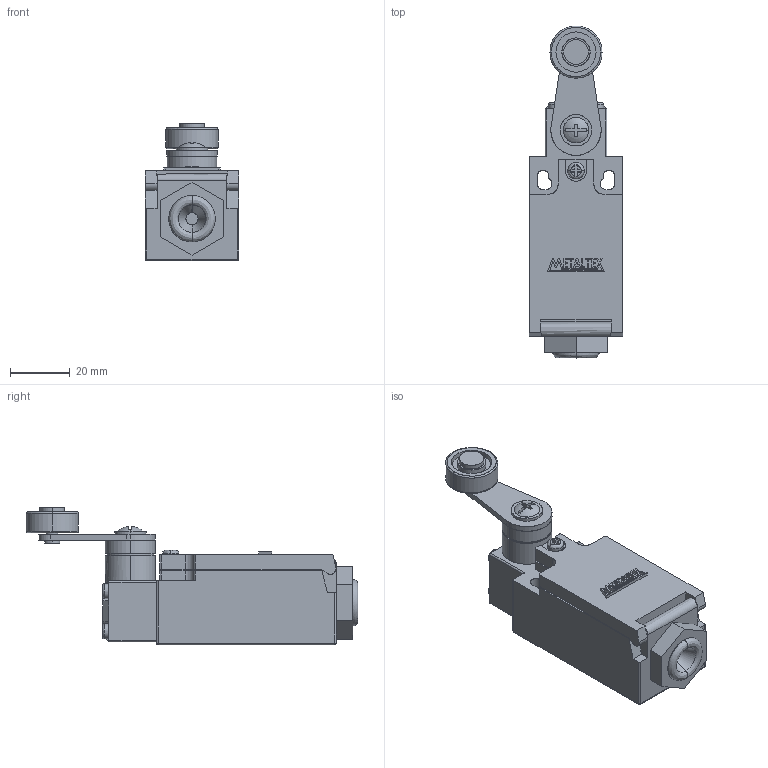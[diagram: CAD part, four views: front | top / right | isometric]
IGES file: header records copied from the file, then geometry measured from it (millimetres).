
Start section: SolidWorks IGES file using analytic representation for surfaces
Global section: file name: D:\X - Arquivos\PROEX\Empresas\P11 - METALTEX\01 - Produtos\IGES\4ª remessa\5ª etapa\FM9204.IGS; native system: SolidWorks 2012; preprocessor: SolidWorks 2012; author: Usuario; date: 180601.135626; units: millimetre
Bounding box: 31.3 x 110.8 x 45.85 mm (x, y, z)
Surface area: 15288.5 mm2 (no closed solid volume)
Topology: 0 solids, 0 shells, 409 faces, 3857 edges, 3853 vertices
Faces by surface type: bspline 309, revolution 100
